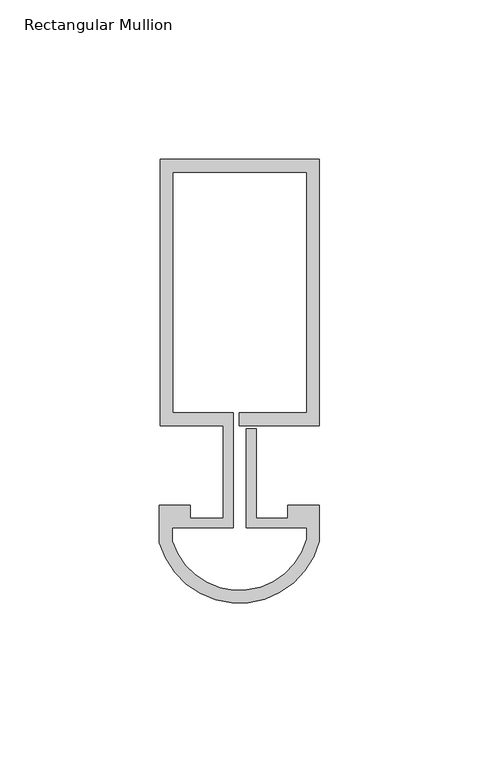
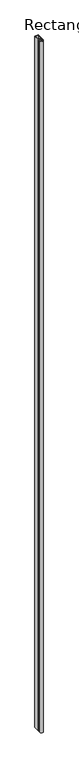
"""IFC4 building model written with IfcOpenShell, lengths in millimetres: member geometry, Rectangular Mullion : Reynaers_CW-50_Mullion-Transom_Vertical_83.5mm_Facecap-07."""

from ifc_helpers import new_model, si_unit, point, frame, frame_2d, origin, place, context, project, spatial, polyline, circle_curve, trimmed, segment, composite_curve, outline, extrude, source, transform, mapped, element, save


def rectangular_mullion_2d95dfcb(model_context):
    return source(origin(), model_context, "Body", "SweptSolid", [
        extrude(outline(composite_curve([segment(polyline([(-24.8004059, 96.0), (25.1995941, 96.0), (25.1995941, 12.5), (0.0, 12.5), (0.0, 16.5), (21.1995941, 16.5), (21.1995941, 92.0), (-20.8004059, 92.0), (-20.8004059, 16.5), (-1.9004059, 16.5), (-1.9004059, -19.5), (-20.994845, -19.5), (-20.994845, -23.684232)]), True, "CONTINUOUS"), segment(trimmed(circle_curve(frame_2d((0.0217873, -17.1383151)), 22.0124479), [point((-20.994845, -23.684232))], [point((21.1995941, -23.1423436))], True, "CARTESIAN"), True, "CONTINUOUS"), segment(polyline([(21.1995941, -23.1423436), (21.1995941, -19.5), (2.2995941, -19.5), (2.2995941, 11.5), (5.2995941, 11.5), (5.2995941, -16.5), (15.2996495, -16.5), (15.2996495, -12.5), (25.1995941, -12.5), (25.1995941, -23.6747887)]), True, "CONTINUOUS"), segment(trimmed(circle_curve(frame_2d((0.0217873, -17.1383151)), 26.0124479), [point((25.1995941, -23.6747887))], [point((-24.994845, -24.2668179))], False, "CARTESIAN"), True, "CONTINUOUS"), segment(polyline([(-24.994845, -24.2668179), (-24.994845, -12.5), (-15.2996495, -12.5), (-15.2996495, -16.5), (-4.9004059, -16.5), (-4.9004059, 12.5), (-24.8004059, 12.5), (-24.8004059, 96.0)]), True, "CONTINUOUS")], self_intersect=False)), frame((0.0, 0.0, -10400.0), z_axis=(0.0, 0.0, 1.0), x_axis=(1.0, 0.0, 0.0)), (0.0, 0.0, 1.0), 10400.0),
    ])


if __name__ == "__main__":
    model = new_model("IFC4")
    model_context = context("Model", 3, world=origin())
    ifc_project = project(units=[si_unit("LENGTHUNIT", "METRE", prefix="MILLI")], contexts=[model_context])
    site = spatial("IfcSite", under=ifc_project)
    building = spatial("IfcBuilding", under=site)
    placement = place(None, origin())
    rectangular_mullion_shape = rectangular_mullion_2d95dfcb(model_context)
    element("IfcMember", 1, ObjectType="Rectangular Mullion : Reynaers_CW-50_Mullion-Transom_Vertical_83.5mm_Facecap-07", at=placement, inside=building, context=model_context, shape_type="MappedRepresentation", body=[
        mapped(rectangular_mullion_shape, transform((0.0, 0.0, 0.0), x_axis=(1.0, 0.0, 0.0), y_axis=(0.0, 1.0, 0.0), z_axis=(0.0, 0.0, 1.0))),
    ])
    save(model, "model.ifc")
